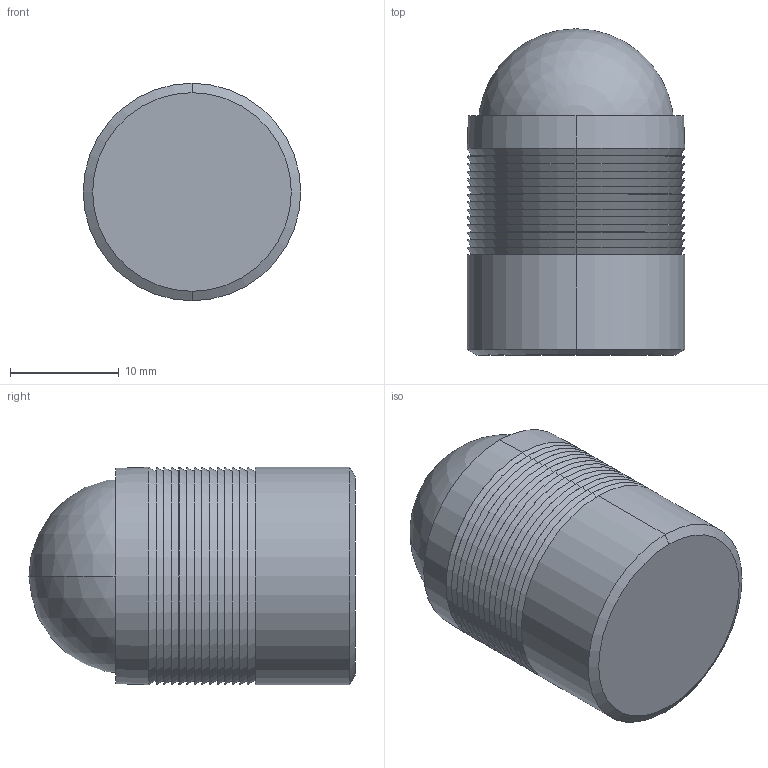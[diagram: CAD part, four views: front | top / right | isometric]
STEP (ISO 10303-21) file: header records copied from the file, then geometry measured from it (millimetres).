
FILE_DESCRIPTION (( 'STEP AP203' ), '1' );
FILE_NAME ('HC200.STEP', '2024-05-11T05:27:57', ( '' ), ( '' ), 'SwSTEP 2.0', 'SolidWorks 2013', '' );
FILE_SCHEMA (( 'CONFIG_CONTROL_DESIGN' ));
Length unit declared in the file: millimetre
Products named in the file (1): HC200
Bounding box: 20 x 30 x 20 mm (x, y, z)
Volume: 5433.4 mm3; surface area: 4369.1 mm2
Topology: 2 solids, 2 shells, 88 faces, 179 edges, 106 vertices
Faces by surface type: cone 36, cylinder 34, plane 16, sphere 2
Entity records: 2333 total; most frequent: DIRECTION 452, CARTESIAN_POINT 364, ORIENTED_EDGE 344, AXIS2_PLACEMENT_3D 191, EDGE_CURVE 172, EDGE_LOOP 103, VERTEX_POINT 103, CIRCLE 102
